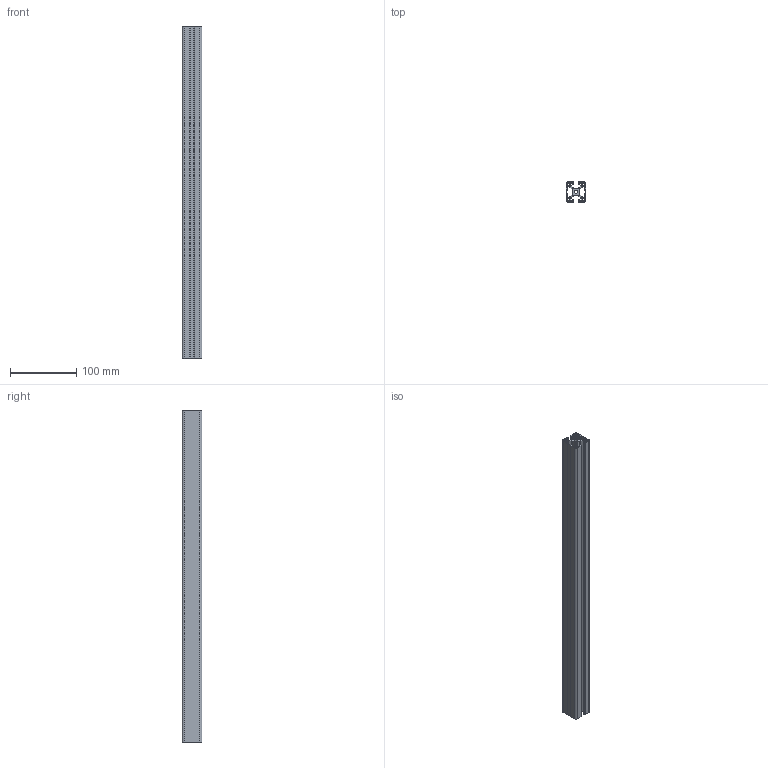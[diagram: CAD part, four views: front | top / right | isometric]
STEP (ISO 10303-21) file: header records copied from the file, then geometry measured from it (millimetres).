
FILE_DESCRIPTION (( 'STEP AP203' ), '1' );
FILE_NAME ('M ATP I6 3030L2NP.STEP', '2012-08-09T09:32:47', ( 'alle' ), ( 'Hewlett-Packard Company' ), 'SwSTEP 2.0', 'SolidWorks 2011', '' );
FILE_SCHEMA (( 'CONFIG_CONTROL_DESIGN' ));
Length unit declared in the file: millimetre
Products named in the file (1): M ATP I6 3030L2NP
Bounding box: 30 x 30 x 500 mm (x, y, z)
Volume: 173983.5 mm3; surface area: 180142.8 mm2
Topology: 1 solids, 1 shells, 152 faces, 450 edges, 300 vertices
Faces by surface type: plane 78, cylinder 74
Entity records: 5227 total; most frequent: DIRECTION 904, CARTESIAN_POINT 903, ORIENTED_EDGE 900, EDGE_CURVE 450, LINE 302, VECTOR 302, AXIS2_PLACEMENT_3D 301, VERTEX_POINT 300
